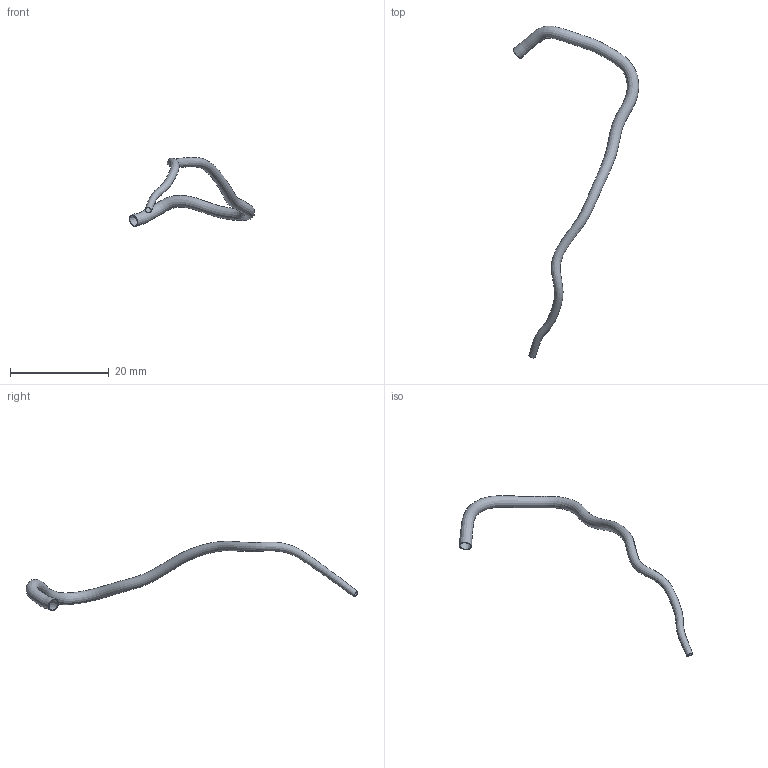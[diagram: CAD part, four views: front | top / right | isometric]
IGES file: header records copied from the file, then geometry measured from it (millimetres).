
Global section: file name: C:\Documents and Settings\Administrator\Desktop\FDA-Pig\Domestic RCA\Pig_000004\rca.seg.ed.igs; native system: Rhinoceros ( May 19 2006 ); preprocessor: Trout Lake IGES 012 May 19 2006; date: 111205.185020; units: centimetre
Bounding box: 25.37 x 67.15 x 14 mm (x, y, z)
Surface area: 1186 mm2 (no closed solid volume)
Topology: 0 solids, 0 shells, 4 faces, 13 edges, 10 vertices
Faces by surface type: bspline 4
